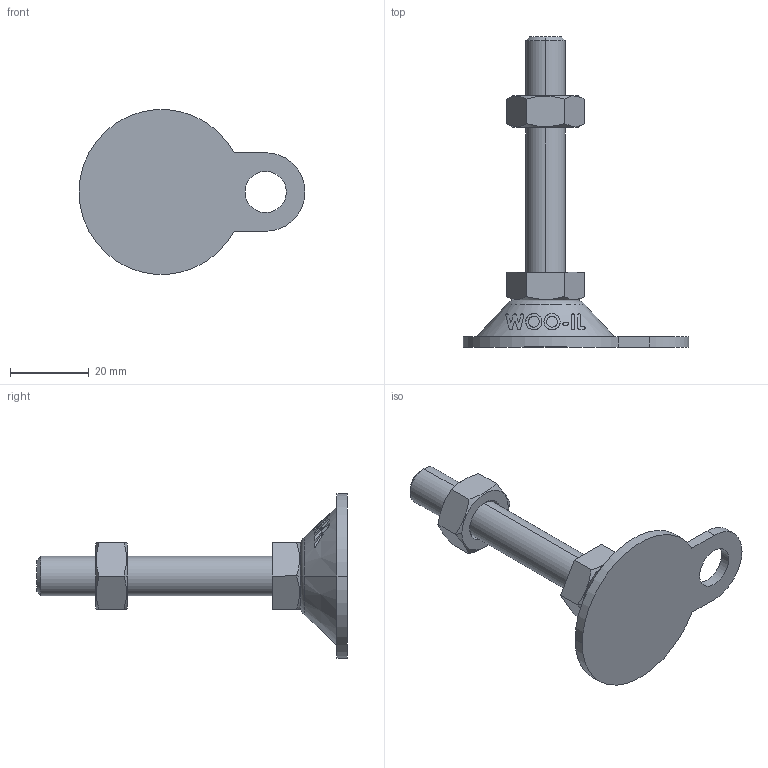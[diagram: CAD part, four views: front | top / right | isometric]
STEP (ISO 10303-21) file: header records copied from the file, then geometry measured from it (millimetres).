
FILE_DESCRIPTION (( 'STEP AP214' ), '1' );
FILE_NAME ('ABL42-M10-60.step', '2021-02-05T04:18:07', ( '' ), ( '' ), 'SwSTEP 2.0', 'SolidWorks 2019', '' );
FILE_SCHEMA (( 'AUTOMOTIVE_DESIGN' ));
Length unit declared in the file: millimetre
Products named in the file (2): ABL42-M10-60
Bounding box: 57.5 x 79 x 41.86 mm (x, y, z)
Volume: 17230.4 mm3; surface area: 7500.3 mm2
Topology: 2 solids, 2 shells, 128 faces, 325 edges, 212 vertices
Faces by surface type: plane 48, cylinder 38, cone 22, bspline 18, torus 2
Entity records: 5503 total; most frequent: CARTESIAN_POINT 2617, ORIENTED_EDGE 650, DIRECTION 473, EDGE_CURVE 325, VERTEX_POINT 212, AXIS2_PLACEMENT_3D 176, EDGE_LOOP 143, B_SPLINE_CURVE_WITH_KNOTS 140
